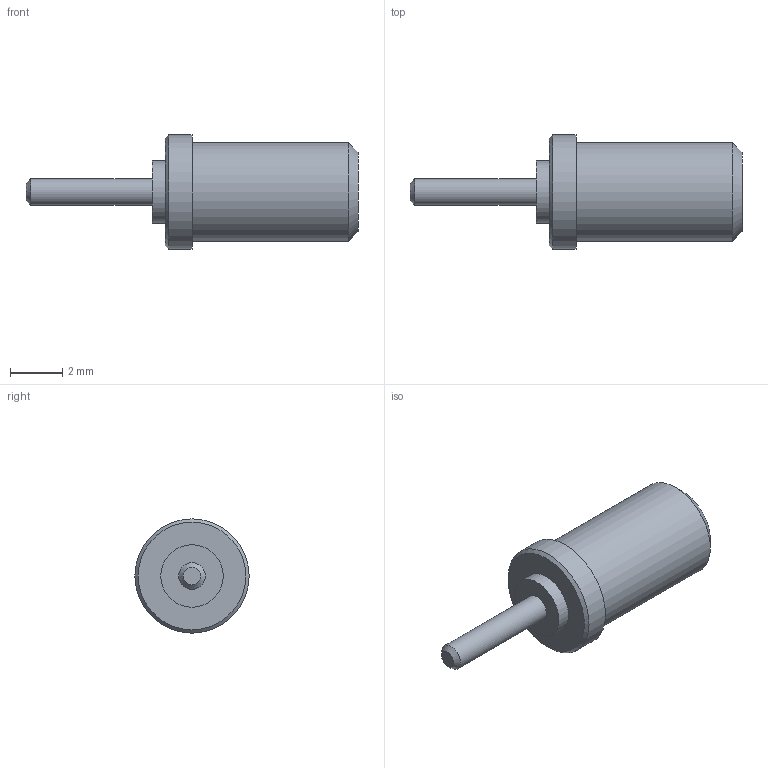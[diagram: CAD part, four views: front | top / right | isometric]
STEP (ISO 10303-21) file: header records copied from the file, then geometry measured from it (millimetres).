
FILE_DESCRIPTION(/* description */ (''),/* implementation_level */ '2;1');
FILE_NAME(/* name */ '\\Snap1\dwgs\Customer 3D Models\571\571-4029-04 Customer model.stp',/* time_stamp */ '2017-01-05T09:46:12+00:00',/* author */ ('paulk'),/* organization */ (''),/* preprocessor_version */ 'ST-DEVELOPER v15.2',/* originating_system */ 'Autodesk Inventor 2014',/* authorisation */ '');
FILE_SCHEMA (('CONFIG_CONTROL_DESIGN'));
Length unit declared in the file: millimetre
Products named in the file (1): 571-4029-04 Customer model
Bounding box: 12.7 x 4.37 x 4.37 mm (x, y, z)
Volume: 91.9 mm3; surface area: 134.4 mm2
Topology: 1 solids, 1 shells, 12 faces, 18 edges, 11 vertices
Faces by surface type: plane 5, cylinder 4, cone 3
Full cylindrical faces by diameter (mm): 1.016 x1, 2.388 x1, 3.785 x1, 4.369 x1
Entity records: 281 total; most frequent: DIRECTION 48, CARTESIAN_POINT 35, AXIS2_PLACEMENT_3D 24, EDGE_LOOP 22, ORIENTED_EDGE 22, FACE_BOUND 13, STYLED_ITEM 13, ADVANCED_FACE 12
